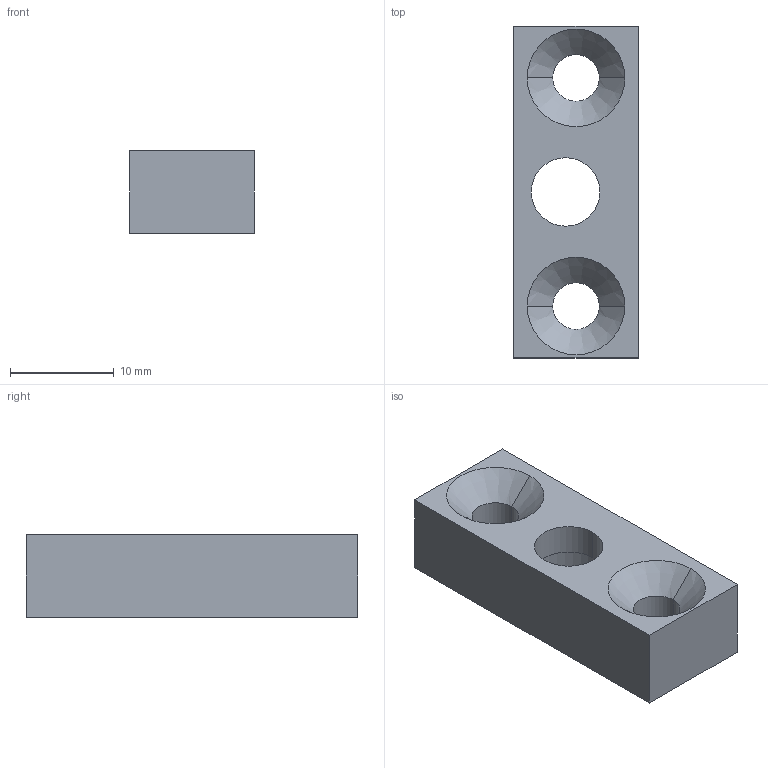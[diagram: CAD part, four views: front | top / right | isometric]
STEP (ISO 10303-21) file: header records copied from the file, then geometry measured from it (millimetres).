
FILE_DESCRIPTION (( 'STEP AP203' ), '1' );
FILE_NAME ('356.095.003.STEP', '2013-01-29T09:40:54', ( 'Alusic' ), ( 'Alusic' ), 'SwSTEP 2.0', 'SolidWorks 2011', '' );
FILE_SCHEMA (( 'CONFIG_CONTROL_DESIGN' ));
Length unit declared in the file: millimetre
Products named in the file (1): 356.095.003
Bounding box: 12 x 32 x 8 mm (x, y, z)
Volume: 2281.2 mm3; surface area: 1744.8 mm2
Topology: 1 solids, 1 shells, 19 faces, 44 edges, 28 vertices
Faces by surface type: cylinder 8, plane 7, cone 4
Entity records: 635 total; most frequent: DIRECTION 104, CARTESIAN_POINT 92, ORIENTED_EDGE 88, EDGE_CURVE 44, AXIS2_PLACEMENT_3D 40, VERTEX_POINT 28, EDGE_LOOP 26, VECTOR 24
